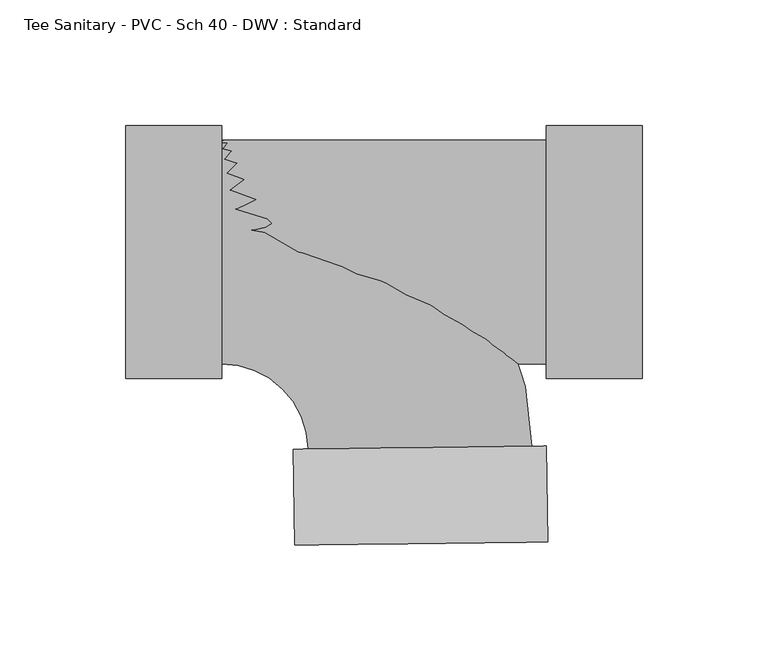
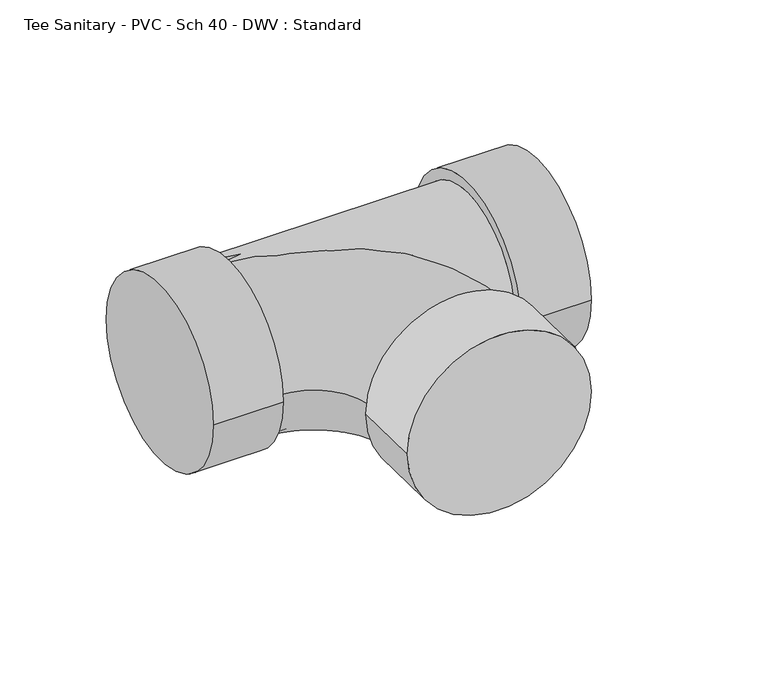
"""IFC4 building model written with IfcOpenShell, lengths in millimetres: pipe fitting geometry, Tee Sanitary - PVC - Sch 40 - DWV : Standard."""

from ifc_helpers import new_model, si_unit, point, frame, origin, place, context, project, spatial, circle_curve, ellipse_curve, trimmed, source, transform, mapped, element, save
from ifc_brep_helpers import plane_surface, cylinder_surface, revolved_surface, advanced_brep


def tee_sanitary_pvc_sch_40_dwv_standard_29521979(model_context):
    return source(origin(), model_context, "Body", "AdvancedBrep", [
        advanced_brep(
        [(-77.8002, -44.45, 0.0), (-77.8002, 44.45, 0.0), (-43.4634154, -78.3556325, 0.0), (45.4294877, -77.232346, 0.0), (51.7270319, -115.2558094, 0.0), (-48.7981426, -116.526086, 0.0), (51.2456234, -77.158851, 0.0), (-49.2795511, -78.4291275, 0.0)],
        [
            (0, 1, circle_curve(frame((-77.8002, 0.0, 0.0), z_axis=(-1.0, 0.0, 0.0), x_axis=(0.0, 1.0, 0.0)), 44.45)),
            (1, 0, circle_curve(frame((-77.8002, 0.0, 0.0), z_axis=(-1.0, 0.0, 0.0), x_axis=(0.0, 1.0, 0.0)), 44.45)),
            (0, 2, circle_curve(frame((-77.8002, -78.7895259, 0.0), z_axis=(0.0, 0.0, -1.0), x_axis=(0.0, 1.0, 0.0)), 34.3395259)),
            (2, 3, circle_curve(frame((0.9830361, -77.7939892, 0.0), z_axis=(-0.01263539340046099, 0.9999201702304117, 0.0), x_axis=(0.9999201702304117, 0.01263539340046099, 0.0)), 44.45)),
            (3, 1, circle_curve(frame((-77.8002, -78.7895259, 0.0), z_axis=(0.0, 0.0, 1.0), x_axis=(0.0, 1.0, 0.0)), 123.2395259)),
            (3, 2, circle_curve(frame((0.9830361, -77.7939892, 0.0), z_axis=(-0.012635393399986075, 0.9999201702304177, 0.0), x_axis=(0.9999201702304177, 0.012635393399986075, 0.0)), 44.45)),
            (4, 5, circle_curve(frame((1.4644446, -115.8909477, 0.0), z_axis=(0.012635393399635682, -0.9999201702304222, 0.0), x_axis=(-0.9999201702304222, -0.012635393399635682, 0.0)), 50.2666)),
            (5, 4, circle_curve(frame((1.4644446, -115.8909477, 0.0), z_axis=(0.012635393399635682, -0.9999201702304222, 0.0), x_axis=(-0.9999201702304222, -0.012635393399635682, 0.0)), 50.2666)),
            (6, 7, circle_curve(frame((0.9830361, -77.7939892, 0.0), z_axis=(-0.012635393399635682, 0.9999201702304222, 0.0), x_axis=(-0.9999201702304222, -0.012635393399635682, 0.0)), 50.2666)),
            (7, 6, circle_curve(frame((0.9830361, -77.7939892, 0.0), z_axis=(-0.012635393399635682, 0.9999201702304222, 0.0), x_axis=(-0.9999201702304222, -0.012635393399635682, 0.0)), 50.2666)),
            (4, 6),
            (7, 5),
        ],
        [
            plane_surface(frame((-77.8002, 0.0, 0.0), z_axis=(-1.0, 0.0, 0.0), x_axis=(0.0, 0.0, 1.0))),
            revolved_surface(trimmed(ellipse_curve(frame((-77.8002, 0.0, 0.0), z_axis=(-1.0, 0.0, 0.0), x_axis=(0.0, 1.0, 0.0)), 44.45, 44.45), [point((-77.8002, -44.45, 0.0))], [point((-77.8002, 44.45, 0.0))], True, "CARTESIAN"), (-77.8002, -78.7895259, 0.0), (0.0, 0.0, -1.0)),
            revolved_surface(trimmed(ellipse_curve(frame((-77.8002, 0.0, 0.0), z_axis=(-1.0, 0.0, 0.0), x_axis=(0.0, 1.0, 0.0)), 44.45, 44.45), [point((-77.8002, 44.45, 0.0))], [point((-77.8002, -44.45, 0.0))], True, "CARTESIAN"), (-77.8002, -78.7895259, 0.0), (0.0, 0.0, -1.0)),
            plane_surface(frame((1.4644446, -115.8909477, 0.0), z_axis=(0.012635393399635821, -0.9999201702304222, 0.0), x_axis=(0.0, 0.0, 1.0))),
            plane_surface(frame((0.9830361, -77.7939892, 0.0), z_axis=(-0.012635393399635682, 0.9999201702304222, 0.0), x_axis=(0.0, 0.0, 1.0))),
            cylinder_surface(frame((1.4644446, -115.8909477, 0.0), z_axis=(0.012635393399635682, -0.9999201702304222, 0.0), x_axis=(-0.9999201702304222, -0.012635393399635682, 0.0)), 50.2666),
        ],
        [
            (0, [[1, 2]]),
            (1, [[-1, 3, 4, 5]]),
            (2, [[-2, -5, 6, -3]]),
            (3, [[7, 8]]),
            (4, [[9, 10], [-4, -6]]),
            (5, [[-7, 11, -10, 12]]),
            (5, [[-8, -12, -9, -11]]),
        ],
    ),
        advanced_brep(
        [(-77.8002, -44.45, 0.0), (51.2456234, -44.45, 0.0), (51.2456234, 44.45, 0.0), (-77.8002, 44.45, 0.0), (51.2456234, -50.2666, 0.0), (51.2456234, 50.2666, 0.0), (89.3456234, -50.2666, 0.0), (89.3456234, 50.2666, 0.0), (-115.9002, -50.2666, 0.0), (-115.9002, 50.2666, 0.0), (-77.8002, -50.2666, 0.0), (-77.8002, 50.2666, 0.0)],
        [
            (0, 1),
            (1, 2, circle_curve(frame((51.2456234, 0.0, 0.0), z_axis=(-1.0, 0.0, 0.0), x_axis=(0.0, 1.0, 0.0)), 44.45)),
            (2, 3),
            (3, 0, circle_curve(frame((-77.8002, 0.0, 0.0), z_axis=(1.0, 0.0, 0.0), x_axis=(0.0, 1.0, 0.0)), 44.45)),
            (0, 3, circle_curve(frame((-77.8002, 0.0, 0.0), z_axis=(1.0, 0.0, 0.0), x_axis=(0.0, 1.0, 0.0)), 44.45)),
            (2, 1, circle_curve(frame((51.2456234, 0.0, 0.0), z_axis=(-1.0, 0.0, 0.0), x_axis=(0.0, 1.0, 0.0)), 44.45)),
            (4, 5, circle_curve(frame((51.2456234, 0.0, 0.0), z_axis=(-1.0, 0.0, 0.0), x_axis=(0.0, 1.0, 0.0)), 50.2666)),
            (5, 4, circle_curve(frame((51.2456234, 0.0, 0.0), z_axis=(-1.0, 0.0, 0.0), x_axis=(0.0, 1.0, 0.0)), 50.2666)),
            (6, 7, circle_curve(frame((89.3456234, 0.0, 0.0), z_axis=(1.0, 0.0, 0.0), x_axis=(0.0, 1.0, 0.0)), 50.2666)),
            (7, 6, circle_curve(frame((89.3456234, 0.0, 0.0), z_axis=(1.0, 0.0, 0.0), x_axis=(0.0, 1.0, 0.0)), 50.2666)),
            (4, 6),
            (7, 5),
            (8, 9, circle_curve(frame((-115.9002, 0.0, 0.0), z_axis=(-1.0, 0.0, 0.0), x_axis=(0.0, 1.0, 0.0)), 50.2666)),
            (9, 8, circle_curve(frame((-115.9002, 0.0, 0.0), z_axis=(-1.0, 0.0, 0.0), x_axis=(0.0, 1.0, 0.0)), 50.2666)),
            (10, 11, circle_curve(frame((-77.8002, 0.0, 0.0), z_axis=(1.0, 0.0, 0.0), x_axis=(0.0, 1.0, 0.0)), 50.2666)),
            (11, 10, circle_curve(frame((-77.8002, 0.0, 0.0), z_axis=(1.0, 0.0, 0.0), x_axis=(0.0, 1.0, 0.0)), 50.2666)),
            (8, 10),
            (11, 9),
        ],
        [
            cylinder_surface(frame((-77.8002, 0.0, 0.0), z_axis=(-1.0, 0.0, 0.0), x_axis=(0.0, 1.0, 0.0)), 44.45),
            plane_surface(frame((51.2456234, 0.0, 0.0), z_axis=(-1.0, 0.0, 0.0), x_axis=(0.0, 0.0, 1.0))),
            plane_surface(frame((89.3456234, 0.0, 0.0), z_axis=(1.0, 0.0, 0.0), x_axis=(0.0, 0.0, 1.0))),
            cylinder_surface(frame((51.2456234, 0.0, 0.0), z_axis=(-1.0, 0.0, 0.0), x_axis=(0.0, 1.0, 0.0)), 50.2666),
            plane_surface(frame((-115.9002, 0.0, 0.0), z_axis=(-1.0, 0.0, 0.0), x_axis=(0.0, 0.0, 1.0))),
            plane_surface(frame((-77.8002, 0.0, 0.0), z_axis=(1.0, 0.0, 0.0), x_axis=(0.0, 0.0, 1.0))),
            cylinder_surface(frame((-115.9002, 0.0, 0.0), z_axis=(-1.0, 0.0, 0.0), x_axis=(0.0, 1.0, 0.0)), 50.2666),
        ],
        [
            (0, [[1, 2, 3, 4]]),
            (0, [[-1, 5, -3, 6]]),
            (1, [[7, 8], [-2, -6]]),
            (2, [[9, 10]]),
            (3, [[-7, 11, -10, 12]]),
            (3, [[-8, -12, -9, -11]]),
            (4, [[13, 14]]),
            (5, [[15, 16], [-4, -5]]),
            (6, [[-13, 17, -16, 18]]),
            (6, [[-14, -18, -15, -17]]),
        ],
    ),
    ])


if __name__ == "__main__":
    model = new_model("IFC4")
    model_context = context("Model", 3, world=origin())
    ifc_project = project(units=[si_unit("LENGTHUNIT", "METRE", prefix="MILLI")], contexts=[model_context])
    site = spatial("IfcSite", under=ifc_project)
    building = spatial("IfcBuilding", under=site)
    placement = place(None, origin())
    tee_sanitary_pvc_sch_40_dwv_standard_shape = tee_sanitary_pvc_sch_40_dwv_standard_29521979(model_context)
    element("IfcPipeFitting", 1, ObjectType="Tee Sanitary - PVC - Sch 40 - DWV : Standard", at=placement, inside=building, context=model_context, shape_type="MappedRepresentation", body=[
        mapped(tee_sanitary_pvc_sch_40_dwv_standard_shape, transform((0.0, 0.0, 0.0), x_axis=(1.0, 0.0, 0.0), y_axis=(0.0, 1.0, 0.0), z_axis=(0.0, 0.0, 1.0))),
    ])
    save(model, "model.ifc")
